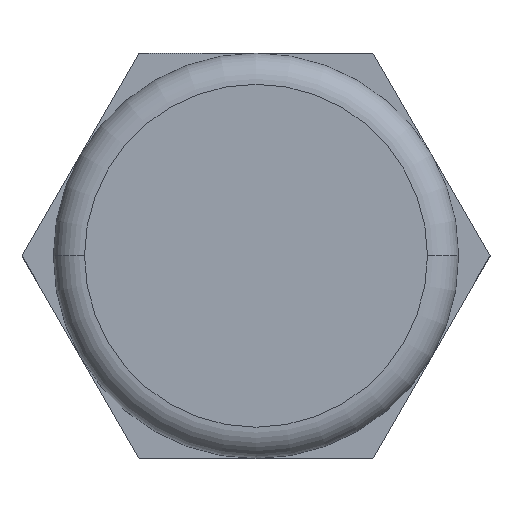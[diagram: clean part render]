
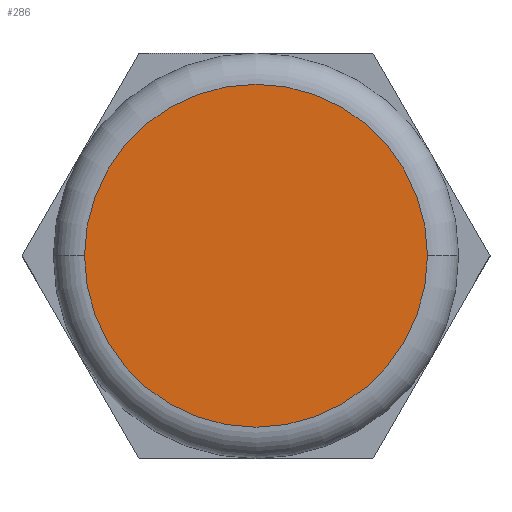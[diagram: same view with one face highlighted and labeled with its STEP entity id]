
A CAD part, top view. The second image highlights one B-rep face of the part: STEP entity #286.
In plain terms, the highlighted planar face has unit normal (0, 0, 1).
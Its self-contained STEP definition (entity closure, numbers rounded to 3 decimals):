
#16 = DIRECTION ( 'NONE',  ( 1., 0., 0. ) ) ;
#21 = CARTESIAN_POINT ( 'NONE',  ( 0., 0., 14. ) ) ;
#23 = FACE_OUTER_BOUND ( 'NONE', #562, .T. ) ;
#83 = DIRECTION ( 'NONE',  ( 1., 0., 0. ) ) ;
#86 = VERTEX_POINT ( 'NONE', #661 ) ;
#97 = CIRCLE ( 'NONE', #704, 5.5 ) ;
#132 = ORIENTED_EDGE ( 'NONE', *, *, #650, .T. ) ;
#204 = ORIENTED_EDGE ( 'NONE', *, *, #328, .T. ) ;
#286 = ADVANCED_FACE ( 'NONE', ( #23 ), #384, .T. ) ;
#328 = EDGE_CURVE ( 'NONE', #86, #435, #97, .T. ) ;
#336 = CARTESIAN_POINT ( 'NONE',  ( 0., 0., 14. ) ) ;
#339 = DIRECTION ( 'NONE',  ( 0., 0., 1. ) ) ;
#344 = DIRECTION ( 'NONE',  ( 1., 0., 0. ) ) ;
#348 = DIRECTION ( 'NONE',  ( 0., 0., 1. ) ) ;
#384 = PLANE ( 'NONE',  #659 ) ;
#435 = VERTEX_POINT ( 'NONE', #672 ) ;
#508 = AXIS2_PLACEMENT_3D ( 'NONE', #336, #339, #344 ) ;
#509 = DIRECTION ( 'NONE',  ( 0., 0., 1. ) ) ;
#551 = CIRCLE ( 'NONE', #508, 5.5 ) ;
#562 = EDGE_LOOP ( 'NONE', ( #132, #204 ) ) ;
#623 = CARTESIAN_POINT ( 'NONE',  ( 0., 0., 14. ) ) ;
#650 = EDGE_CURVE ( 'NONE', #435, #86, #551, .T. ) ;
#659 = AXIS2_PLACEMENT_3D ( 'NONE', #623, #509, #83 ) ;
#661 = CARTESIAN_POINT ( 'NONE',  ( -5.5, 0., 14. ) ) ;
#672 = CARTESIAN_POINT ( 'NONE',  ( 5.5, 0., 14. ) ) ;
#704 = AXIS2_PLACEMENT_3D ( 'NONE', #21, #348, #16 ) ;
